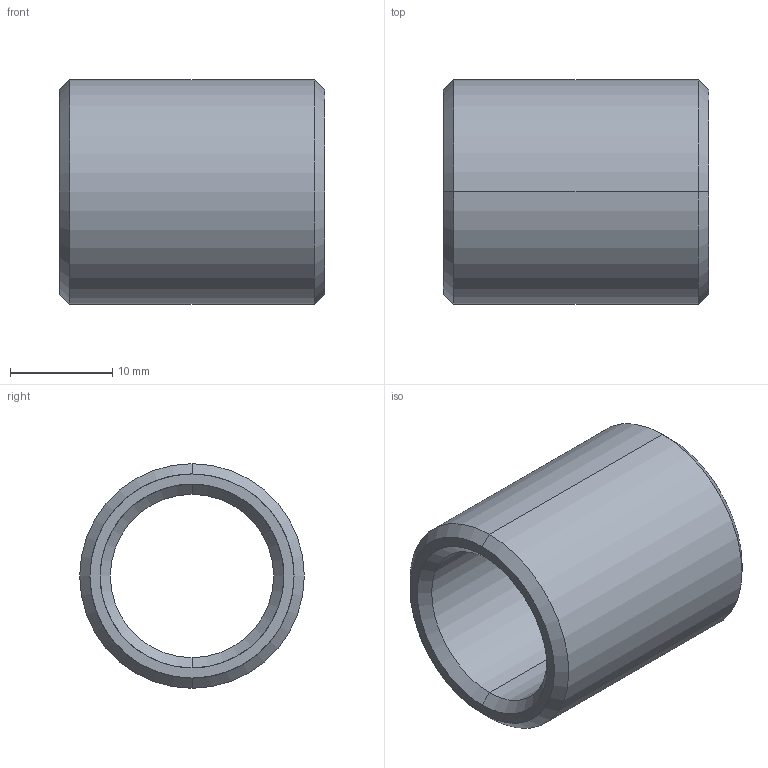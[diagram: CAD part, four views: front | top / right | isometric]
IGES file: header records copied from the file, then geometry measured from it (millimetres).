
Start section: START RECORD GO HERE.
Global section: file name: 352-16X26.igs; native system: DASSAULT SYSTEMES CATIA V5 R20 - www.3ds.com; preprocessor: CATIA Version 5 Release 20 ; author: Utente; organization: NB04-ASUS; date: 20210410.110836; units: millimetre
Bounding box: 26 x 22 x 22 mm (x, y, z)
Surface area: 3329.2 mm2 (no closed solid volume)
Topology: 0 solids, 0 shells, 14 faces, 88 edges, 88 vertices
Faces by surface type: revolution 12, plane 2
